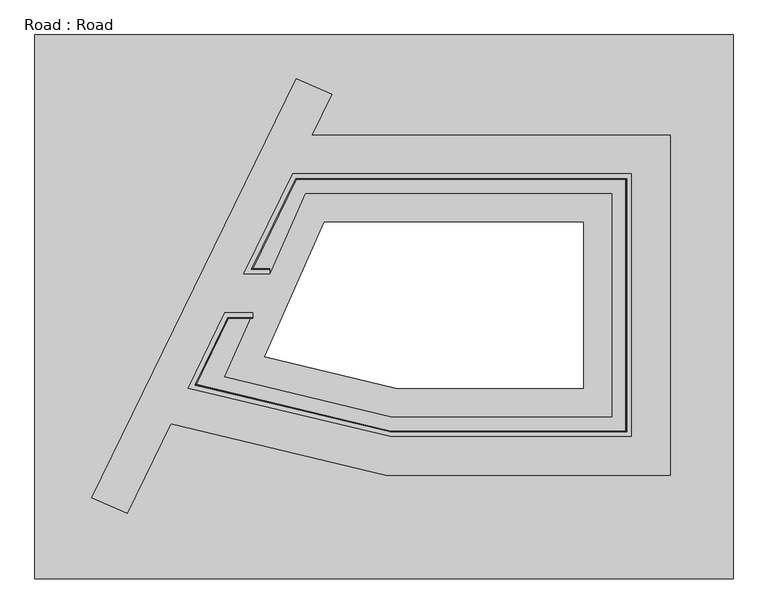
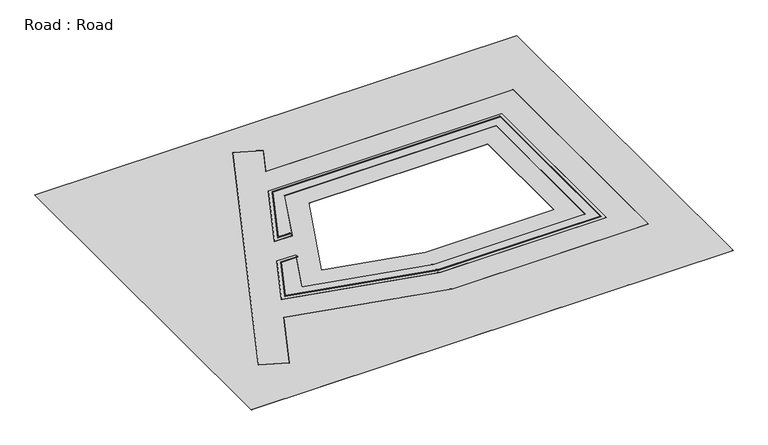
"""IFC4 building model written with IfcOpenShell, lengths in millimetres: geographic element geometry, Road : Road."""

from ifc_helpers import new_model, si_unit, frame, origin, place, context, project, spatial, polyline, circle_curve, ellipse_curve, outline, extrude, source, transform, mapped, element, save
from ifc_brep_helpers import plane_surface, cylinder_surface, advanced_brep


def road_road_67be75eb(model_context):
    return source(origin(), model_context, "Body", "SolidModel", [
        advanced_brep(
        [(-59771.5125665, -6772.6148653, 110.0), (-59771.5125665, -8209.7408395, 110.0), (-59771.5125665, -8313.6638879, 170.0), (-59771.5125665, -8313.6638879, 290.0), (-59771.5125665, -8453.6638879, 290.0), (-59771.5125665, -8453.6638879, 50.0), (-59771.5125665, -6772.6148653, 50.0), (-68372.82548, -6772.6148653, 110.0), (-79789.8100991, -30180.9022892, 110.0), (-17029.6672374, -45202.6148653, 110.0), (57962.4134102, -45202.6148653, 110.0), (57962.4134102, 36397.3851347, 110.0), (-47317.4096316, 36397.3851347, 110.0), (-62470.0418269, 5329.8851347, 110.0), (-54442.1292923, 5329.8851347, 110.0), (-54442.1292923, 6767.0111089, 110.0), (-60170.1595078, 6767.0111089, 110.0), (-46419.3936555, 34960.2591605, 110.0), (56525.287436, 34960.2591605, 110.0), (56525.287436, -43765.4888911, 110.0), (-16860.0734946, -43765.4888911, 110.0), (-77712.6194208, -29200.3618415, 110.0), (-67474.8095039, -8209.7408395, 110.0), (-67409.871176, -8313.6638879, 170.0), (-67409.871176, -8313.6638879, 290.0), (-67322.3894667, -8453.6638879, 290.0), (-67322.3894667, -8453.6638879, 50.0), (-77360.058343, -29033.9349455, 50.0), (-16831.2883891, -43521.5658426, 50.0), (56281.3643875, -43521.5658426, 50.0), (56281.3643875, 34716.3361121, 50.0), (-46266.9736183, 34716.3361121, 50.0), (-59779.8010309, 7010.9341574, 50.0), (-54442.1292923, 7010.9341574, 50.0), (-54442.1292923, 5329.8851347, 50.0), (-62470.0418269, 5329.8851347, 50.0), (-47317.4096316, 36397.3851347, 50.0), (57962.4134102, 36397.3851347, 50.0), (57962.4134102, -45202.6148653, 50.0), (-17029.6672374, -45202.6148653, 50.0), (-79789.8100991, -30180.9022892, 50.0), (-68372.82548, -6772.6148653, 50.0), (-77562.4113031, -29129.4559124, 170.0), (-77562.4113031, -29129.4559124, 290.0), (-77360.058343, -29033.9349455, 290.0), (-16847.8096436, -43661.5658426, 170.0), (-16847.8096436, -43661.5658426, 290.0), (-16831.2883891, -43521.5658426, 290.0), (56421.3643875, -43661.5658426, 170.0), (56421.3643875, -43661.5658426, 290.0), (56281.3643875, -43521.5658426, 290.0), (56421.3643875, 34856.3361121, 170.0), (56421.3643875, 34856.3361121, 290.0), (56281.3643875, 34716.3361121, 290.0), (-46354.4553276, 34856.3361121, 170.0), (-46354.4553276, 34856.3361121, 290.0), (-46266.9736183, 34716.3361121, 290.0), (-60003.847865, 6870.9341574, 170.0), (-60003.847865, 6870.9341574, 290.0), (-59779.8010309, 7010.9341574, 290.0), (-54442.1292923, 7010.9341574, 290.0), (-54442.1292923, 6870.9341574, 290.0), (-54442.1292923, 6870.9341574, 170.0)],
        [
            (0, 1),
            (1, 2),
            (2, 3),
            (3, 4, circle_curve(frame((-59771.5125665, -8383.6638879, 290.0), z_axis=(1.0, 0.0, 0.0), x_axis=(0.0, -1.0, 0.0)), 70.0)),
            (4, 5),
            (5, 6),
            (6, 0),
            (0, 7),
            (7, 8),
            (8, 9),
            (9, 10),
            (10, 11),
            (11, 12),
            (12, 13),
            (13, 14),
            (14, 15),
            (15, 16),
            (16, 17),
            (17, 18),
            (18, 19),
            (19, 20),
            (20, 21),
            (21, 22),
            (22, 1),
            (22, 23),
            (23, 2),
            (23, 24),
            (24, 3),
            (24, 25, ellipse_curve(frame((-67366.1303213, -8383.6638879, 290.0), z_axis=(0.8480480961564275, 0.5299192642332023, 0.0), x_axis=(0.5299192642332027, -0.8480480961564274, 0.0)), 82.5424882, 70.0)),
            (25, 4),
            (25, 26),
            (26, 5),
            (26, 27),
            (27, 28),
            (28, 29),
            (29, 30),
            (30, 31),
            (31, 32),
            (32, 33),
            (33, 34),
            (34, 35),
            (35, 36),
            (36, 37),
            (37, 38),
            (38, 39),
            (39, 40),
            (40, 41),
            (41, 6),
            (41, 7),
            (21, 42),
            (42, 23),
            (42, 43),
            (43, 24),
            (43, 44, ellipse_curve(frame((-77461.2348231, -29081.695429, 290.0), z_axis=(-0.42687987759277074, 0.9043083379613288, 0.0), x_axis=(0.9043083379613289, 0.4268798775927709, 0.0)), 111.8827239, 70.0)),
            (44, 25),
            (44, 27),
            (40, 8),
            (20, 45),
            (45, 42),
            (45, 46),
            (46, 43),
            (46, 47, ellipse_curve(frame((-16839.5490164, -43591.5658426, 290.0), z_axis=(-0.9931088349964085, 0.11719574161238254, 0.0), x_axis=(0.11719574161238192, 0.9931088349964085, 0.0)), 70.4857288, 70.0)),
            (47, 44),
            (47, 28),
            (39, 9),
            (19, 48),
            (48, 45),
            (48, 49),
            (49, 46),
            (49, 50, ellipse_curve(frame((56351.3643875, -43591.5658426, 290.0), z_axis=(-0.7071067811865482, -0.7071067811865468, 0.0), x_axis=(-0.7071067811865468, 0.7071067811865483, 0.0)), 98.9949494, 70.0)),
            (50, 47),
            (50, 29),
            (38, 10),
            (18, 51),
            (51, 48),
            (51, 52),
            (52, 49),
            (52, 53, ellipse_curve(frame((56351.3643875, 34786.3361121, 290.0), z_axis=(0.7071067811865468, -0.7071067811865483, 0.0), x_axis=(-0.7071067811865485, -0.7071067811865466, 0.0)), 98.9949494, 70.0)),
            (53, 50),
            (53, 30),
            (37, 11),
            (17, 54),
            (54, 51),
            (54, 55),
            (55, 52),
            (55, 56, ellipse_curve(frame((-46310.7144729, 34786.3361121, 290.0), z_axis=(0.8480480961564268, 0.5299192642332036, 0.0), x_axis=(0.5299192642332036, -0.8480480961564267, 0.0)), 82.5424882, 70.0)),
            (56, 53),
            (56, 31),
            (36, 12),
            (16, 57),
            (57, 54),
            (57, 58),
            (58, 55),
            (58, 59, ellipse_curve(frame((-59891.824448, 6940.9341574, 290.0), z_axis=(-0.5299192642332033, 0.8480480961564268, 0.0), x_axis=(0.8480480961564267, 0.5299192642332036, 0.0)), 132.095594, 70.0)),
            (59, 56),
            (59, 32),
            (35, 13),
            (14, 34),
            (33, 60),
            (60, 61, circle_curve(frame((-54442.1292923, 6940.9341574, 290.0), z_axis=(1.0, 0.0, 0.0), x_axis=(0.0, 1.0, 0.0)), 70.0)),
            (61, 62),
            (62, 15),
            (62, 57),
            (61, 58),
            (60, 59),
        ],
        [
            plane_surface(frame((-59771.5125665, -6772.6148653, 0.0), z_axis=(1.0, 0.0, 0.0), x_axis=(0.0, 0.0, 1.0))),
            plane_surface(frame((-59771.5125665, -6772.6148653, 110.0), z_axis=(0.0, 0.0, 1.0), x_axis=(-1.0, 0.0, 0.0))),
            plane_surface(frame((-59771.5125665, -8209.7408395, 110.0), z_axis=(0.0, 0.49999999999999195, 0.8660254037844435), x_axis=(-1.0, 0.0, 0.0))),
            plane_surface(frame((-59771.5125665, -8313.6638879, 170.0), z_axis=(0.0, 1.0, 0.0), x_axis=(-1.0, 0.0, 0.0))),
            cylinder_surface(frame((-59771.5125665, -8383.6638879, 290.0), z_axis=(1.0, 0.0, 0.0), x_axis=(0.0, -1.0, 0.0)), 70.0),
            plane_surface(frame((-59771.5125665, -8453.6638879, 290.0), z_axis=(0.0, -1.0, 0.0), x_axis=(-1.0, 0.0, 0.0))),
            plane_surface(frame((-59771.5125665, -8453.6638879, 50.0), z_axis=(0.0, 0.0, -1.0), x_axis=(-1.0, 0.0, 0.0))),
            plane_surface(frame((-59771.5125665, -6772.6148653, 50.0), z_axis=(0.0, 1.0, 0.0), x_axis=(-1.0, 0.0, 0.0))),
            plane_surface(frame((-67474.8095039, -8209.7408395, 110.0), z_axis=(-0.44939702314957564, 0.21918557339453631, 0.8660254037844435), x_axis=(-0.4383711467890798, -0.8987940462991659, 0.0))),
            plane_surface(frame((-67409.871176, -8313.6638879, 170.0), z_axis=(-0.8987940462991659, 0.43837114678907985, 0.0), x_axis=(-0.43837114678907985, -0.8987940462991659, 0.0))),
            cylinder_surface(frame((-66924.8242101, -7478.8522729, 290.0), z_axis=(0.43837114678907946, 0.898794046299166, 0.0), x_axis=(0.898794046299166, -0.43837114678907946, 0.0)), 70.0),
            plane_surface(frame((-67322.3894667, -8453.6638879, 290.0), z_axis=(0.8987940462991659, -0.43837114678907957, 0.0), x_axis=(-0.43837114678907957, -0.8987940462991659, 0.0))),
            plane_surface(frame((-68372.82548, -6772.6148653, 50.0), z_axis=(-0.898794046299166, 0.4383711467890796, 0.0), x_axis=(-0.4383711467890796, -0.898794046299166, 0.0))),
            plane_surface(frame((-77712.6194208, -29200.3618415, 110.0), z_axis=(-0.1163881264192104, -0.486265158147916, 0.8660254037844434), x_axis=(0.9725303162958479, -0.2327762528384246, 0.0))),
            plane_surface(frame((-77562.4113031, -29129.4559124, 170.0), z_axis=(-0.23277625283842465, -0.9725303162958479, 0.0), x_axis=(0.9725303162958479, -0.23277625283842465, 0.0))),
            cylinder_surface(frame((-79414.7961445, -28614.1082736, 290.0), z_axis=(-0.972530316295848, 0.23277625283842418, 0.0), x_axis=(0.23277625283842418, 0.972530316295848, 0.0)), 70.0),
            plane_surface(frame((-77360.058343, -29033.9349455, 290.0), z_axis=(0.23277625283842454, 0.9725303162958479, 0.0), x_axis=(0.9725303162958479, -0.23277625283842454, 0.0))),
            plane_surface(frame((-79789.8100991, -30180.9022892, 50.0), z_axis=(-0.23277625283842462, -0.9725303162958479, 0.0), x_axis=(0.9725303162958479, -0.23277625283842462, 0.0))),
            plane_surface(frame((-16860.0734946, -43765.4888911, 110.0), z_axis=(0.0, -0.49999999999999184, 0.8660254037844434), x_axis=(1.0, 0.0, 0.0))),
            plane_surface(frame((-16847.8096436, -43661.5658426, 170.0), z_axis=(0.0, -1.0, 0.0), x_axis=(1.0, 0.0, 0.0))),
            cylinder_surface(frame((-17029.6672374, -43591.5658426, 290.0), z_axis=(-1.0, 0.0, 0.0), x_axis=(0.0, 1.0, 0.0)), 70.0),
            plane_surface(frame((-16831.2883891, -43521.5658426, 290.0), z_axis=(0.0, 1.0, 0.0), x_axis=(1.0, 0.0, 0.0))),
            plane_surface(frame((-17029.6672374, -45202.6148653, 50.0), z_axis=(0.0, -1.0, 0.0), x_axis=(1.0, 0.0, 0.0))),
            plane_surface(frame((56525.287436, -43765.4888911, 110.0), z_axis=(0.49999999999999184, 0.0, 0.8660254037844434), x_axis=(0.0, 1.0, 0.0))),
            plane_surface(frame((56421.3643875, -43661.5658426, 170.0), z_axis=(1.0, 0.0, 0.0), x_axis=(0.0, 1.0, 0.0))),
            cylinder_surface(frame((56351.3643875, -45202.6148653, 290.0), z_axis=(0.0, -1.0, 0.0), x_axis=(-1.0, 0.0, 0.0)), 70.0),
            plane_surface(frame((56281.3643875, -43521.5658426, 290.0), z_axis=(-1.0, 0.0, 0.0), x_axis=(0.0, 1.0, 0.0))),
            plane_surface(frame((57962.4134102, -45202.6148653, 50.0), z_axis=(1.0, 0.0, 0.0), x_axis=(0.0, 1.0, 0.0))),
            plane_surface(frame((56525.287436, 34960.2591605, 110.0), z_axis=(0.0, 0.49999999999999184, 0.8660254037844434), x_axis=(-1.0, 0.0, 0.0))),
            plane_surface(frame((56421.3643875, 34856.3361121, 170.0), z_axis=(0.0, 1.0, 0.0), x_axis=(-1.0, 0.0, 0.0))),
            cylinder_surface(frame((57962.4134102, 34786.3361121, 290.0), z_axis=(1.0, 0.0, 0.0), x_axis=(0.0, -1.0, 0.0)), 70.0),
            plane_surface(frame((56281.3643875, 34716.3361121, 290.0), z_axis=(0.0, -1.0, 0.0), x_axis=(-1.0, 0.0, 0.0))),
            plane_surface(frame((57962.4134102, 36397.3851347, 50.0), z_axis=(0.0, 1.0, 0.0), x_axis=(-1.0, 0.0, 0.0))),
            plane_surface(frame((-46419.3936555, 34960.2591605, 110.0), z_axis=(-0.44939702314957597, 0.2191855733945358, 0.8660254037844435), x_axis=(-0.4383711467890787, -0.8987940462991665, 0.0))),
            plane_surface(frame((-46354.4553276, 34856.3361121, 170.0), z_axis=(-0.8987940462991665, 0.4383711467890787, 0.0), x_axis=(-0.4383711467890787, -0.8987940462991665, 0.0))),
            cylinder_surface(frame((-45869.4083618, 35691.1477271, 290.0), z_axis=(0.43837114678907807, 0.8987940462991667, 0.0), x_axis=(0.8987940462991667, -0.43837114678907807, 0.0)), 70.0),
            plane_surface(frame((-46266.9736183, 34716.3361121, 290.0), z_axis=(0.8987940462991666, -0.43837114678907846, 0.0), x_axis=(-0.43837114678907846, -0.8987940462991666, 0.0))),
            plane_surface(frame((-47317.4096316, 36397.3851347, 50.0), z_axis=(-0.8987940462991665, 0.4383711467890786, 0.0), x_axis=(-0.4383711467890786, -0.8987940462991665, 0.0))),
            plane_surface(frame((-54442.1292923, 5329.8851347, 0.0), z_axis=(1.0, 0.0, 0.0), x_axis=(0.0, 0.0, 1.0))),
            plane_surface(frame((-60170.1595078, 6767.0111089, 110.0), z_axis=(0.0, -0.4999999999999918, 0.8660254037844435), x_axis=(1.0, 0.0, 0.0))),
            plane_surface(frame((-60003.847865, 6870.9341574, 170.0), z_axis=(0.0, -1.0, 0.0), x_axis=(1.0, 0.0, 0.0))),
            cylinder_surface(frame((-62470.0418269, 6940.9341574, 290.0), z_axis=(-1.0, 0.0, 0.0), x_axis=(0.0, 1.0, 0.0)), 70.0),
            plane_surface(frame((-59779.8010309, 7010.9341574, 290.0), z_axis=(0.0, 1.0, 0.0), x_axis=(1.0, 0.0, 0.0))),
            plane_surface(frame((-62470.0418269, 5329.8851347, 50.0), z_axis=(0.0, -1.0, 0.0), x_axis=(1.0, 0.0, 0.0))),
        ],
        [
            (0, [[1, 2, 3, 4, 5, 6, 7]]),
            (1, [[-1, 8, 9, 10, 11, 12, 13, 14, 15, 16, 17, 18, 19, 20, 21, 22, 23, 24]]),
            (2, [[-2, -24, 25, 26]]),
            (3, [[-3, -26, 27, 28]]),
            (4, [[-4, -28, 29, 30]]),
            (5, [[-5, -30, 31, 32]]),
            (6, [[-6, -32, 33, 34, 35, 36, 37, 38, 39, 40, 41, 42, 43, 44, 45, 46, 47, 48]]),
            (7, [[-7, -48, 49, -8]]),
            (8, [[-25, -23, 50, 51]]),
            (9, [[-27, -51, 52, 53]]),
            (10, [[-29, -53, 54, 55]]),
            (11, [[-31, -55, 56, -33]]),
            (12, [[-49, -47, 57, -9]]),
            (13, [[-50, -22, 58, 59]]),
            (14, [[-52, -59, 60, 61]]),
            (15, [[-54, -61, 62, 63]]),
            (16, [[-56, -63, 64, -34]]),
            (17, [[-57, -46, 65, -10]]),
            (18, [[-58, -21, 66, 67]]),
            (19, [[-60, -67, 68, 69]]),
            (20, [[-62, -69, 70, 71]]),
            (21, [[-64, -71, 72, -35]]),
            (22, [[-65, -45, 73, -11]]),
            (23, [[-66, -20, 74, 75]]),
            (24, [[-68, -75, 76, 77]]),
            (25, [[-70, -77, 78, 79]]),
            (26, [[-72, -79, 80, -36]]),
            (27, [[-73, -44, 81, -12]]),
            (28, [[-74, -19, 82, 83]]),
            (29, [[-76, -83, 84, 85]]),
            (30, [[-78, -85, 86, 87]]),
            (31, [[-80, -87, 88, -37]]),
            (32, [[-81, -43, 89, -13]]),
            (33, [[-82, -18, 90, 91]]),
            (34, [[-84, -91, 92, 93]]),
            (35, [[-86, -93, 94, 95]]),
            (36, [[-88, -95, 96, -38]]),
            (37, [[-89, -42, 97, -14]]),
            (38, [[98, -40, 99, 100, 101, 102, -16]]),
            (39, [[-90, -17, -102, 103]]),
            (40, [[-92, -103, -101, 104]]),
            (41, [[-94, -104, -100, 105]]),
            (42, [[-96, -105, -99, -39]]),
            (43, [[-97, -41, -98, -15]]),
        ],
    ),
        extrude(outline(polyline([(57962.4134102, 36397.3851347), (57962.4134102, -45202.6148653), (-17029.6672374, -45202.6148653), (-79789.8100991, -30180.9022892), (-68372.82548, -6772.6148653), (-59771.5125665, -6772.6148653), (-68547.6108108, -26702.2621693), (-16321.6134724, -39202.6148653), (51962.4134102, -39202.6148653), (51962.4134102, 30397.3851347), (-43403.5574911, 30397.3851347), (-54442.1292923, 5329.8851347), (-62470.0418269, 5329.8851347), (-47317.4096316, 36397.3851347), (57962.4134102, 36397.3851347)])), frame((0.0, 0.0, -50.0), z_axis=(0.0, 0.0, 1.0), x_axis=(1.0, 0.0, 0.0)), (0.0, 0.0, 1.0), 100.0),
        extrude(outline(polyline([(89568.5174692, 79614.3568835), (89568.5174692, -89385.6431165), (-127431.4825308, -89385.6431165), (-127431.4825308, 79614.3568835), (89568.5174692, 79614.3568835)]), holes=[polyline([(-109780.5433358, -64296.9534637), (-98768.3139913, -69092.6017267), (-85178.8084408, -41229.9862914), (-18445.7747674, -57202.6148653), (69962.4134102, -57202.6148653), (69962.4134102, 48397.3851347), (-41464.6185688, 48397.3851347), (-35237.5865899, 61164.6927227), (-46249.8159345, 65960.3409857), (-109780.5433358, -64296.9534637)])]), frame((0.0, 0.0, -50.0), z_axis=(0.0, 0.0, 1.0), x_axis=(1.0, 0.0, 0.0)), (0.0, 0.0, 1.0), 100.0),
        extrude(outline(polyline([(-109780.5433358, -64296.9534637), (-46249.8159345, 65960.3409857), (-35237.5865899, 61164.6927227), (-41464.6185688, 48397.3851347), (69962.4134102, 48397.3851347), (69962.4134102, -57202.6148653), (-18445.7747674, -57202.6148653), (-85178.8084408, -41229.9862914), (-98768.3139913, -69092.6017267), (-109780.5433358, -64296.9534637)]), holes=[polyline([(-55964.7439578, -20459.7756347), (-15259.5328249, -30202.6148653), (42962.4134102, -30202.6148653), (42962.4134102, 21397.3851347), (-37532.7792804, 21397.3851347), (-55964.7439578, -20459.7756347)]), polyline([(-54442.1292923, 5329.8851347), (-43403.5574911, 30397.3851347), (51962.4134102, 30397.3851347), (51962.4134102, -39202.6148653), (-16321.6134724, -39202.6148653), (-68547.6108108, -26702.2621693), (-59771.5125665, -6772.6148653), (-68372.82548, -6772.6148653), (-79789.8100991, -30180.9022892), (-17029.6672374, -45202.6148653), (57962.4134102, -45202.6148653), (57962.4134102, 36397.3851347), (-47317.4096316, 36397.3851347), (-62470.0418269, 5329.8851347), (-54442.1292923, 5329.8851347)])]), frame((0.0, 0.0, -100.0), z_axis=(0.0, 0.0, 1.0), x_axis=(1.0, 0.0, 0.0)), (0.0, 0.0, 1.0), 100.0),
    ])


if __name__ == "__main__":
    model = new_model("IFC4")
    model_context = context("Model", 3, world=origin())
    ifc_project = project(units=[si_unit("LENGTHUNIT", "METRE", prefix="MILLI")], contexts=[model_context])
    site = spatial("IfcSite", under=ifc_project)
    building = spatial("IfcBuilding", under=site)
    placement = place(None, origin())
    road_road_shape = road_road_67be75eb(model_context)
    element("IfcGeographicElement", 1, ObjectType="Road : Road", at=placement, inside=building, context=model_context, shape_type="MappedRepresentation", body=[
        mapped(road_road_shape, transform((0.0, 0.0, 0.0), x_axis=(1.0, 0.0, 0.0), y_axis=(0.0, 1.0, 0.0), z_axis=(0.0, 0.0, 1.0))),
    ])
    save(model, "model.ifc")
